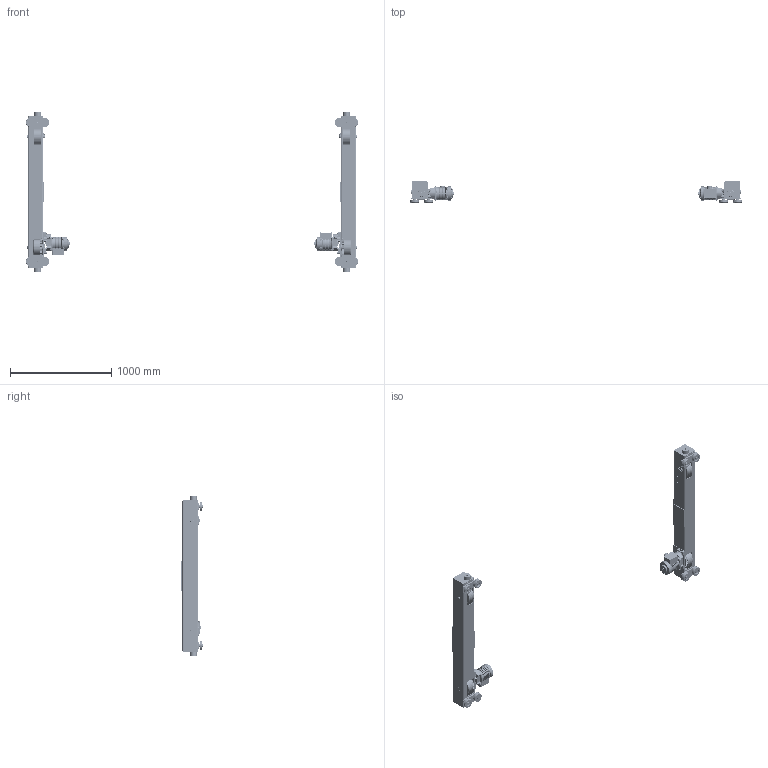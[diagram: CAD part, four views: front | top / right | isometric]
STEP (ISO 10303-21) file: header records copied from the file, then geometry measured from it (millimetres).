
FILE_DESCRIPTION (( 'STEP AP214' ), '1' );
FILE_NAME ('TML-3-0335.STEP', '2026-08-11T17:22:08', ( '' ), ( '' ), 'SwSTEP 2.0', 'SolidWorks 2026', '' );
FILE_SCHEMA (( 'AUTOMOTIVE_DESIGN' ));
Length unit declared in the file: inch
Products named in the file (65): 6240825; 6240817X_6240817A; G1JE025S9604; 62400_0245-0335 - 25# RAIL; 6240820; 9091250_9091250; T600-600-004_58.125; 9012707_9012707; 9012711_9012711; 6240815; N6QL210207; 9798526_9798526; G1JE025S9301_Correct Teeth; N6QO310E9108_N6QO3101108 DOMESTIC; 9012514_9012514; G1JE025S9701; 9047125_B27.7M - 3AM1-23; G1JE025S9610; 6240824; N6QO7201101; 6232404; 6240810; N6QO720E91311; 62401_0245-0335 - 25# RAIL; 9000605; 9091273_9091273; J1BE1-0602020_AS 1420 - M6 x 20-S; 62587; G1JM025L_NORMAL; G1JE025S9707; 6240813; N6QO3101108_N6QO3101108; 9093327_9093327; 62398_6239801; 62588; 6240809; N6Q0720E9102; N6QO720E91341; N6QO720E91013; 9093101_9093101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
Assembly tree (230 placements, depth 4):
  TML-3-0335
    62400_0245-0335 - 25# RAIL
      62398_6239801
        T600-600-004_58.125
        6240824
        6240820
      6240811  x2
      6240813
      6240810
      6240808
      6240809
      T3P116030
      6240817X_6240817A  x2
        6240805X_6240805A
        6232305
    62401_0245-0335 - 25# RAIL
      62399_6239901
        T600-600-004_58.125
        6240824
        6240820
      6240811  x2
      6240813
      T3P116030
      6240809
      6240808
      6240810
      6240817X_6240817A  x2
        6240805X_6240805A
        6232305
    N6QO3101108_N6QO3101108  x8
      N6QO310E9108_N6QO3101108 DOMESTIC
      9047252_9047252
      9000605
    6232404  x8
    9047125_B27.7M - 3AM1-23  x8
    N6QL210207  x4
    9012514_9012514  x4
    9012711_9012711  x20
    9093101_9093101  x4
    6240815  x4
    6240825  x4
    9093327_9093327  x8
    N6QO7201101  x2
      N6QO720E91311
      N6QO720E91013
      9000707
      J1WS011-10060_GB_FASTENER_WASHER_SW 6
      J1BE1-0602020_AS 1420 - M6 x 20-S
      N6QO720E91341
    N6Q07201102  x2
      N6Q0720E9102
      9000707
    G1JM025L_ROTATED 180 DEGREES
      G1JE025S9303
      G1JE025S9310
      G1JE025S9401
      G1JE025S9503
      G1JE025S9610
      G1JE025S9609
      G1JE025S9707
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Bounding box: 3275.61 x 207.96 x 1573.42 mm (x, y, z)
Volume: 26287077.6 mm3; surface area: 6552365.6 mm2
Topology: 254 solids, 318 shells, 18880 faces, 47732 edges, 30132 vertices
Faces by surface type: plane 9068, cylinder 4460, bspline 2166, cone 2088, torus 912, sphere 186
Entity records: 204790 total; most frequent: CARTESIAN_POINT 88594, ORIENTED_EDGE 24102, DIRECTION 21649, EDGE_CURVE 12055, AXIS2_PLACEMENT_3D 8170, VERTEX_POINT 7675, VECTOR 5309, LINE 5309
